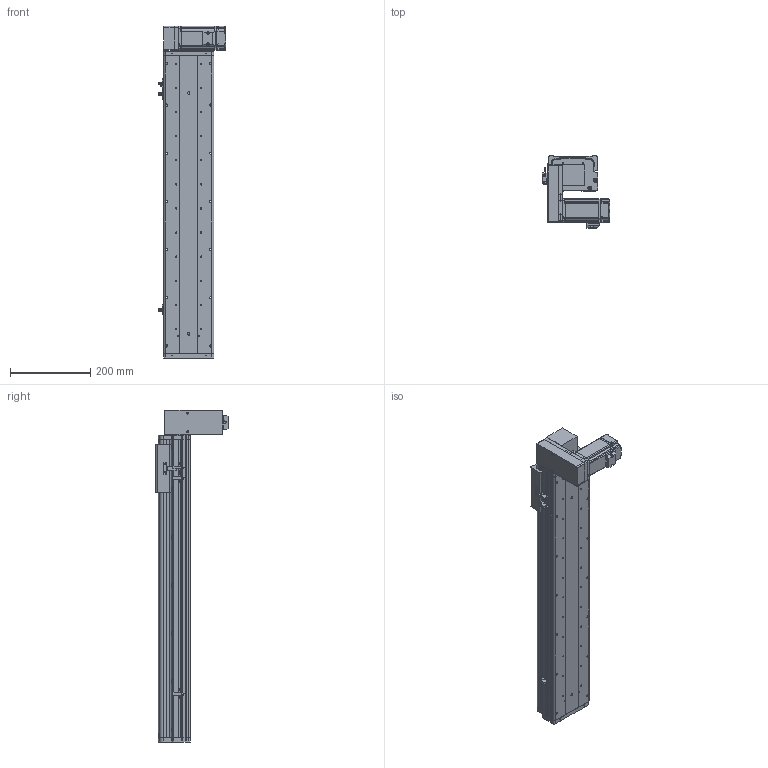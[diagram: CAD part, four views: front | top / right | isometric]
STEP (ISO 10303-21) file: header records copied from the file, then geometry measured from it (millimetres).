
FILE_DESCRIPTION (( 'STEP AP214' ), '1' );
FILE_NAME ('KSD125B-S550-MRD-CM.STEP', '2017-10-21T06:05:59', ( '微软用户' ), ( '微软中国' ), 'SwSTEP 2.0', 'SolidWorks 2014', '' );
FILE_SCHEMA (( 'AUTOMOTIVE_DESIGN' ));
Length unit declared in the file: millimetre
Products named in the file (17): MHMD042G1CA_2_03; KSD125模组550行程同步带-防尘盖; 125模组550行程同步带-底板; KSD125模组同步带-防撞垫2; 覜茼え68遵圉猾敕; U倰嫖萇假蚾璃; U倰嫖萇EEㄜSX672; KSD125模组同步带-防撞垫1; 100宽马达安装板同步带右; 前端板-125宽模组同步带; 125模组同步带-尾端板1; KSD125模组同步带-滑动座1; KSD125B-S550-MRD-CM; 悵誘欶奻狟殏; HTPA30S3M150_A_H6_a佪裝蚚; HTPA30S3M150_A_H6_a萇儂蚚; 100宽马达安装板连板上下折丝杆同步带
Assembly tree (20 placements, depth 2):
  KSD125B-S550-MRD-CM
    KSD125模组同步带-滑动座1
    125模组同步带-尾端板1
    前端板-125宽模组同步带
    100宽马达安装板同步带右
    KSD125模组同步带-防撞垫1
    U倰嫖萇EEㄜSX672  x3
    U倰嫖萇假蚾璃  x3
    覜茼え68遵圉猾敕
    KSD125模组同步带-防撞垫2
    125模组550行程同步带-底板
    KSD125模组550行程同步带-防尘盖
    MHMD042G1CA_2_03
    100宽马达安装板连板上下折丝杆同步带
    HTPA30S3M150_A_H6_a萇儂蚚
    HTPA30S3M150_A_H6_a佪裝蚚
    悵誘欶奻狟殏
Bounding box: 168.7 x 179.5 x 827 mm (x, y, z)
Volume: 2723610.9 mm3; surface area: 942681.4 mm2
Topology: 19 solids, 22 shells, 2253 faces, 6523 edges, 4310 vertices
Faces by surface type: cylinder 1404, plane 722, cone 105, bspline 22
Entity records: 79901 total; most frequent: CARTESIAN_POINT 15801, DIRECTION 12428, ORIENTED_EDGE 11566, EDGE_CURVE 5861, AXIS2_PLACEMENT_3D 4797, VERTEX_POINT 3902, LINE 2834, VECTOR 2834
